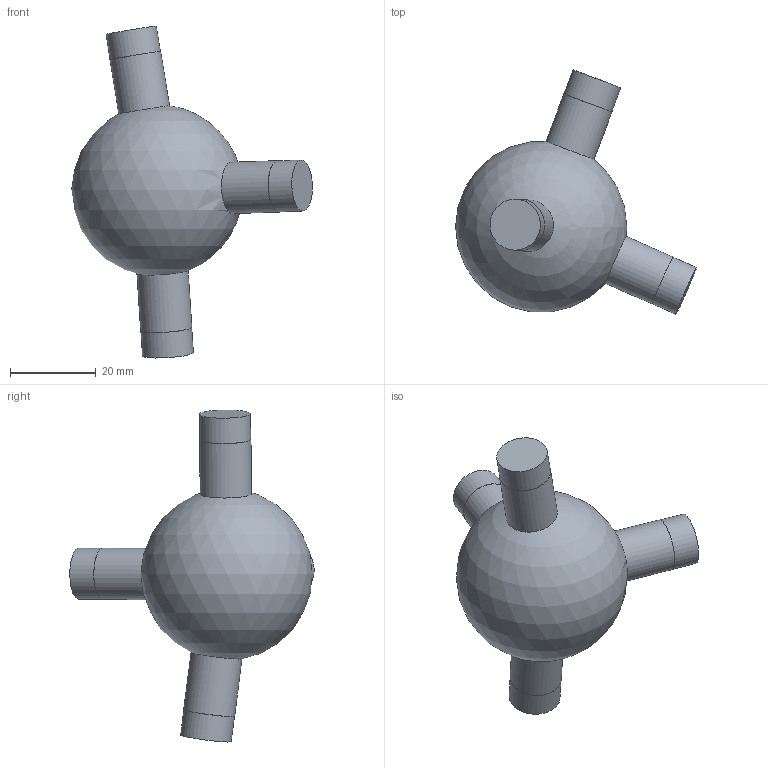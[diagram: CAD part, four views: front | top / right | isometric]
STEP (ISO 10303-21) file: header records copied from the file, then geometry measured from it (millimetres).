
FILE_DESCRIPTION(('Open CASCADE Model'),'2;1');
FILE_NAME('Open CASCADE Shape Model','2026-10-21T12:47:57',('Author'),( 'Open CASCADE'),'Open CASCADE STEP processor 7.9','Open CASCADE 7.9' ,'Unknown');
FILE_SCHEMA(('AUTOMOTIVE_DESIGN { 1 0 10303 214 1 1 1 1 }'));
Length unit declared in the file: millimetre
Products named in the file (1): Open CASCADE STEP translator 7.9 163
Bounding box: 56.23 x 57.07 x 77.53 mm (x, y, z)
Volume: 41654.1 mm3; surface area: 7808 mm2
Topology: 1 solids, 1 shells, 17 faces, 27 edges, 18 vertices
Faces by surface type: cylinder 8, plane 8, sphere 1
Full cylindrical faces by diameter (mm): 11.9 x4, 12 x4
Entity records: 1022 total; most frequent: CARTESIAN_POINT 390, DIRECTION 130, ORIENTED_EDGE 54, PCURVE 54, DEFINITIONAL_REPRESENTATION 54, LINE 44, VECTOR 44, AXIS2_PLACEMENT_3D 37
